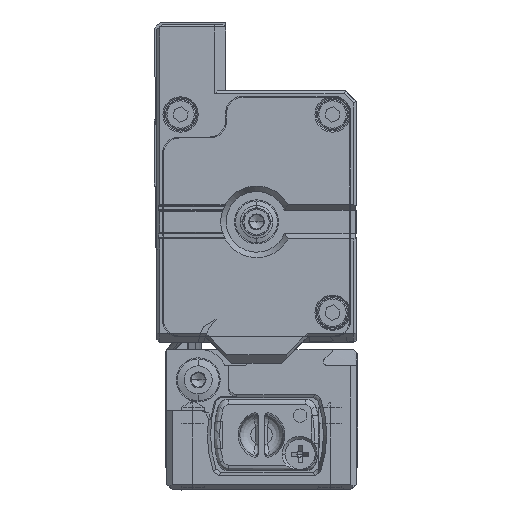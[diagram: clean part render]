
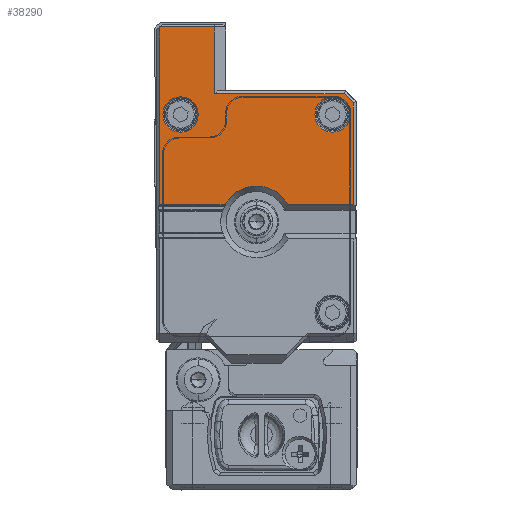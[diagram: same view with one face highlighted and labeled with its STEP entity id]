
A CAD part, left-side view. The second image highlights one B-rep face of the part: STEP entity #38290.
In plain terms, the highlighted planar face has unit normal (-1, 0, 0).
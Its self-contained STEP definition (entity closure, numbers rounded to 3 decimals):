
#32540=CARTESIAN_POINT('',(516.911,-28.8,
-61.394));
#32550=VERTEX_POINT('',#32540);
#32580=CARTESIAN_POINT('',(516.911,-28.8,
0.464));
#32590=DIRECTION('',(0.,0.,1.));
#32600=VECTOR('',#32590,1.);
#32610=LINE('',#32580,#32600);
#32620=CARTESIAN_POINT('',(516.911,-28.8,
-79.876));
#32630=VERTEX_POINT('',#32620);
#32640=EDGE_CURVE('',#32630,#32550,#32610,.T.);
#33230=CARTESIAN_POINT('',(516.911,-54.,
-81.583));
#33240=VERTEX_POINT('',#33230);
#33270=CARTESIAN_POINT('',(516.911,-54.,
-88.233));
#33280=DIRECTION('',(0.,0.,1.));
#33290=VECTOR('',#33280,1.);
#33300=LINE('',#33270,#33290);
#33310=CARTESIAN_POINT('',(516.911,-54.,
-93.683));
#33320=VERTEX_POINT('',#33310);
#33330=EDGE_CURVE('',#33320,#33240,#33300,.T.);
#34530=CARTESIAN_POINT('',(516.911,-30.507,
-81.583));
#34540=VERTEX_POINT('',#34530);
#34570=CARTESIAN_POINT('',(516.911,7.15,
-81.583));
#34580=DIRECTION('',(0.,1.,0.));
#34590=VECTOR('',#34580,1.);
#34600=LINE('',#34570,#34590);
#34610=EDGE_CURVE('',#33240,#34540,#34600,.T.);
#34810=CARTESIAN_POINT('',(516.911,-29.654,
-80.73));
#34820=DIRECTION('',(0.,0.707,
0.707));
#34830=VECTOR('',#34820,1.);
#34840=LINE('',#34810,#34830);
#34850=EDGE_CURVE('',#34540,#32630,#34840,.T.);
#37300=CARTESIAN_POINT('',(516.911,-64.,
-93.683));
#37310=VERTEX_POINT('',#37300);
#37360=CARTESIAN_POINT('',(516.911,7.15,
-93.683));
#37370=DIRECTION('',(0.,1.,0.));
#37380=VECTOR('',#37370,1.);
#37390=LINE('',#37360,#37380);
#37400=EDGE_CURVE('',#37310,#33320,#37390,.T.);
#37520=CARTESIAN_POINT('',(516.911,-51.404,
-48.302));
#37530=DIRECTION('',(-1.,0.,0.));
#37540=DIRECTION('',(0.,0.,1.));
#37550=AXIS2_PLACEMENT_3D('',#37520,#37530,#37540);
#37560=PLANE('',#37550);
#37570=CARTESIAN_POINT('',(516.911,-32.6,
-77.783));
#37580=DIRECTION('',(-1.,0.,0.));
#37590=DIRECTION('',(0.,1.,0.));
#37600=AXIS2_PLACEMENT_3D('',#37570,#37580,#37590);
#37610=CIRCLE('',#37600,3.2);
#37620=CARTESIAN_POINT('',(516.911,-29.4,
-77.783));
#37630=VERTEX_POINT('',#37620);
#37640=CARTESIAN_POINT('',(516.911,-35.8,
-77.783));
#37650=VERTEX_POINT('',#37640);
#37660=EDGE_CURVE('',#37630,#37650,#37610,.T.);
#37670=ORIENTED_EDGE('',*,*,#37660,.F.);
#37680=EDGE_CURVE('',#37650,#37630,#37610,.T.);
#37690=ORIENTED_EDGE('',*,*,#37680,.F.);
#37700=EDGE_LOOP('',(#37690,#37670));
#37710=FACE_BOUND('',#37700,.T.);
#37720=CARTESIAN_POINT('',(516.911,-60.2,
-77.783));
#37730=DIRECTION('',(-1.,0.,0.));
#37740=DIRECTION('',(0.,1.,0.));
#37750=AXIS2_PLACEMENT_3D('',#37720,#37730,#37740);
#37760=CIRCLE('',#37750,3.2);
#37770=CARTESIAN_POINT('',(516.911,-60.2,
-74.583));
#37780=VERTEX_POINT('',#37770);
#37790=CARTESIAN_POINT('',(516.911,-57.,
-77.783));
#37800=VERTEX_POINT('',#37790);
#37810=EDGE_CURVE('',#37780,#37800,#37760,.T.);
#37820=ORIENTED_EDGE('',*,*,#37810,.F.);
#37830=CARTESIAN_POINT('',(516.911,-63.4,
-77.783));
#37840=VERTEX_POINT('',#37830);
#37850=EDGE_CURVE('',#37800,#37840,#37760,.T.);
#37860=ORIENTED_EDGE('',*,*,#37850,.F.);
#37870=EDGE_CURVE('',#37840,#37780,#37760,.T.);
#37880=ORIENTED_EDGE('',*,*,#37870,.F.);
#37890=EDGE_LOOP('',(#37880,#37860,#37820));
#37900=FACE_BOUND('',#37890,.T.);
#37910=ORIENTED_EDGE('',*,*,#37400,.F.);
#37920=ORIENTED_EDGE('',*,*,#33330,.F.);
#37930=ORIENTED_EDGE('',*,*,#34610,.F.);
#37940=ORIENTED_EDGE('',*,*,#34850,.F.);
#37950=ORIENTED_EDGE('',*,*,#32640,.F.);
#37960=CARTESIAN_POINT('',(516.911,7.15,
-61.394));
#37970=DIRECTION('',(0.,1.,0.));
#37980=VECTOR('',#37970,1.);
#37990=LINE('',#37960,#37980);
#38000=CARTESIAN_POINT('',(516.911,-40.681,
-61.394));
#38010=VERTEX_POINT('',#38000);
#38020=EDGE_CURVE('',#38010,#32550,#37990,.T.);
#38030=ORIENTED_EDGE('',*,*,#38020,.T.);
#38040=CARTESIAN_POINT('',(516.911,-46.4,
-58.283));
#38050=DIRECTION('',(-1.,0.,0.));
#38060=DIRECTION('',(0.,-1.,0.));
#38070=AXIS2_PLACEMENT_3D('',#38040,#38050,#38060);
#38080=CIRCLE('',#38070,6.51);
#38090=CARTESIAN_POINT('',(516.911,-52.125,
-61.383));
#38100=VERTEX_POINT('',#38090);
#38110=EDGE_CURVE('',#38010,#38100,#38080,.T.);
#38120=ORIENTED_EDGE('',*,*,#38110,.F.);
#38130=CARTESIAN_POINT('',(516.911,7.15,
-61.383));
#38140=DIRECTION('',(0.,-1.,0.));
#38150=VECTOR('',#38140,1.);
#38160=LINE('',#38130,#38150);
#38170=CARTESIAN_POINT('',(516.911,-64.,
-61.383));
#38180=VERTEX_POINT('',#38170);
#38190=EDGE_CURVE('',#38100,#38180,#38160,.T.);
#38200=ORIENTED_EDGE('',*,*,#38190,.F.);
#38210=CARTESIAN_POINT('',(516.911,-64.,
0.464));
#38220=DIRECTION('',(0.,0.,1.));
#38230=VECTOR('',#38220,1.);
#38240=LINE('',#38210,#38230);
#38250=EDGE_CURVE('',#37310,#38180,#38240,.T.);
#38260=ORIENTED_EDGE('',*,*,#38250,.T.);
#38270=EDGE_LOOP('',(#38260,#38200,#38120,#38030,#37950,#37940,#37930,
#37920,#37910));
#38280=FACE_OUTER_BOUND('',#38270,.T.);
#38290=ADVANCED_FACE('',(#37710,#37900,#38280),#37560,.T.);
